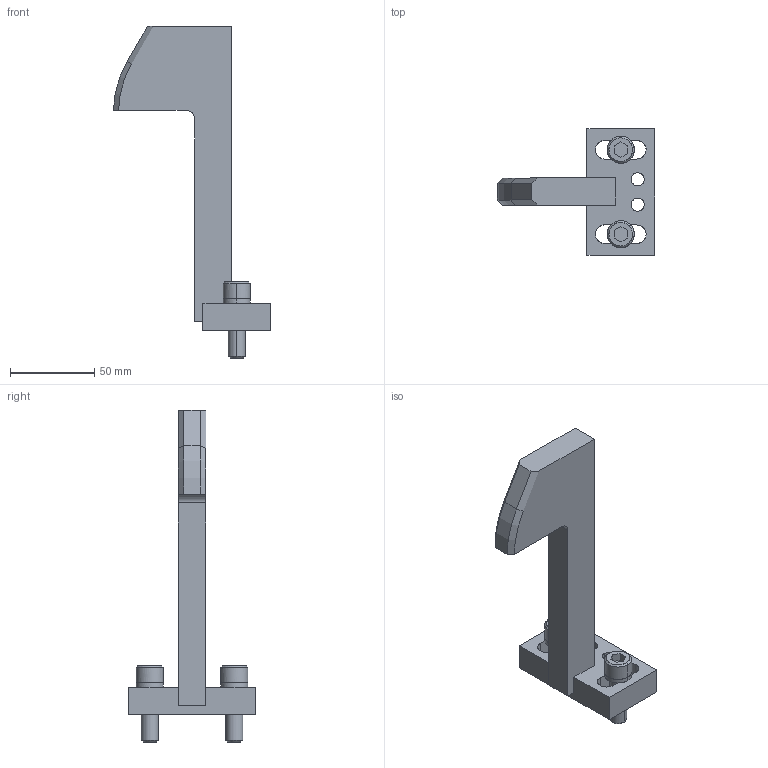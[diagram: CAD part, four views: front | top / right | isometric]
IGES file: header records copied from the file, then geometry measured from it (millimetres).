
Global section: file name: E:\UnigraphicsGraphicData\MISUMI_PRESS-PARTS\IGES\3d_ngwsa-180-35-s70-x48-y130-m10_01619_r00.igs; native system: NX V5.0; preprocessor: UGS NX IGES V5.0; author: MISUMI; date: 20110105.162124; units: millimetre
Bounding box: 92.99 x 75 x 196.5 mm (x, y, z)
Surface area: 36334.6 mm2 (no closed solid volume)
Topology: 0 solids, 0 shells, 104 faces, 671 edges, 671 vertices
Faces by surface type: bspline 104
